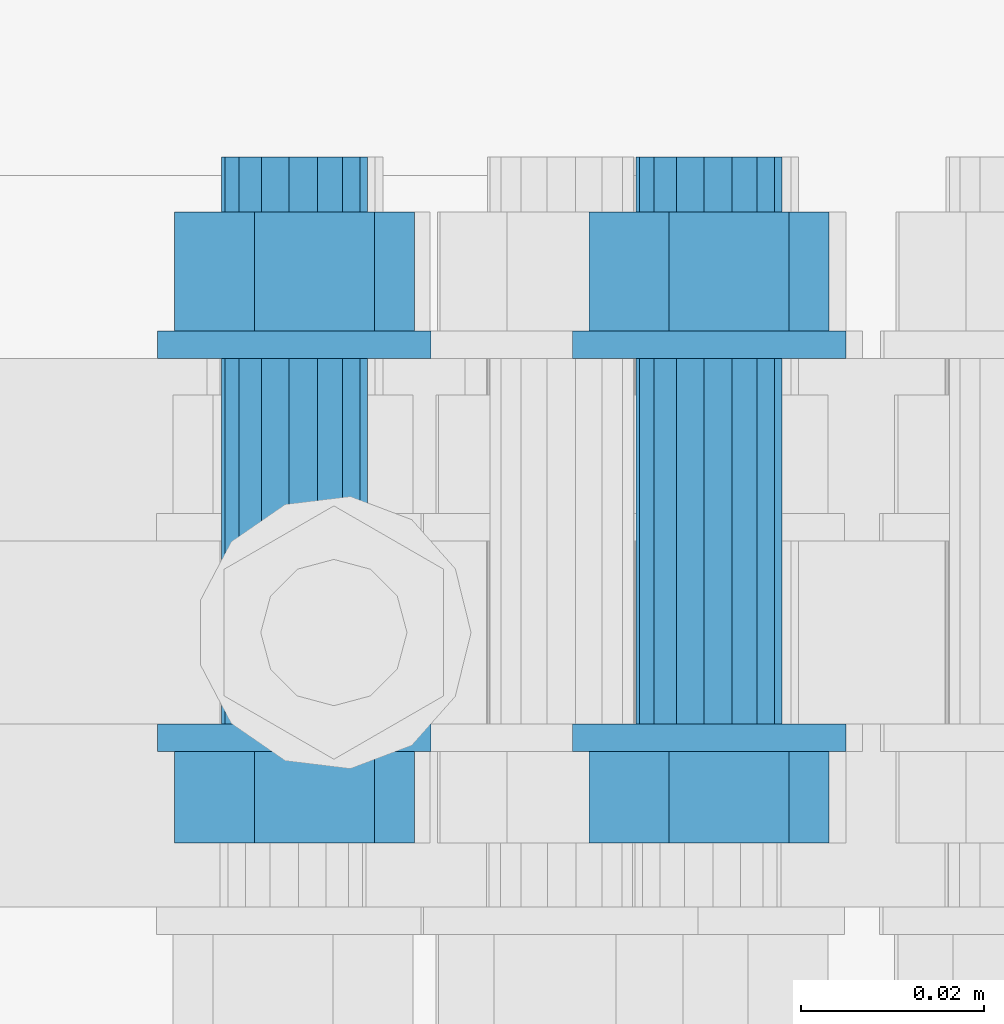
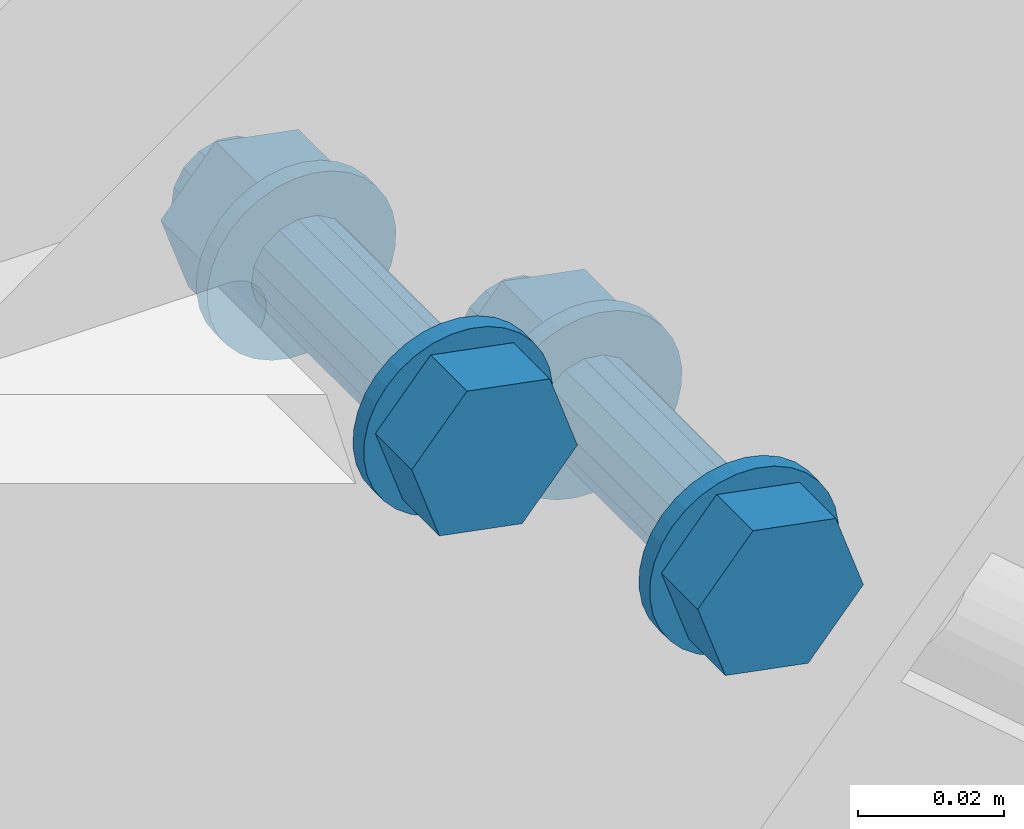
# One storey, part 248 of 825: 1 mechanical fastener.
"""IFC2X3 building model written with IfcOpenShell, lengths in millimetres."""

from ifc_helpers import new_model, entity, si_unit, converted_unit, origin_with_axes, place, context, project, spatial, faceted_brep, element, save


model = new_model("IFC2X3")

# Units and contexts
model_context = context("Model", 3, precision=1e-09, world=origin_with_axes())
ifc_project = project(units=[si_unit("LENGTHUNIT", "METRE", prefix="MILLI"), si_unit("AREAUNIT", "SQUARE_METRE"), si_unit("VOLUMEUNIT", "CUBIC_METRE"), converted_unit("PLANEANGLEUNIT", "DEGREE", entity("IfcPlaneAngleMeasure", 0.01745329), si_unit("PLANEANGLEUNIT", "RADIAN"), dimensions=[0, 0, 0, 0, 0, 0, 0])], contexts=[model_context])

# Site, building, storey
site_placement = place(None, origin_with_axes())
site = spatial("IfcSite", under=ifc_project, at=site_placement, Name="Cnopf'sche Kinderklinik", CompositionType="ELEMENT")
building_placement = place(site_placement, origin_with_axes())
building = spatial("IfcBuilding", under=site, at=building_placement, Name="Struktur 1", CompositionType="ELEMENT")
storey_placement = place(building_placement, origin_with_axes())
storey = spatial("IfcBuildingStorey", under=building, at=storey_placement, Name="Default Storey", CompositionType="ELEMENT", Elevation=0.0)

# Mechanical fastener
mechanical_fastener_placement = place(None, origin_with_axes())
element("IfcMechanicalFastener", 1, at=mechanical_fastener_placement, inside=storey, ObjectType="-", NominalDiameter=16.0, NominalLength=65.0, context=model_context, shape_type="Brep", body=[
    faceted_brep([(5026.414419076, 4356.736971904, 6838.024527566), (5026.414419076, 4353.736971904, 6838.024527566), (5028.548111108, 4353.736971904, 6840.047886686), (5028.548111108, 4356.736971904, 6840.047886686), (5031.035542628, 4353.736971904, 6841.616104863), (5031.035542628, 4356.736971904, 6841.616104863), (5033.781123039, 4353.736971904, 6842.668916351), (5033.781123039, 4356.736971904, 6842.668916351), (5036.679341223, 4353.736971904, 6843.165862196), (5036.679341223, 4356.736971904, 6843.165862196), (5039.618820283, 4353.736971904, 6843.087845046), (5039.618820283, 4356.736971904, 6843.087845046), (5042.486597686, 4353.736971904, 6842.437863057), (5042.486597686, 4356.736971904, 6842.437863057), (5045.172466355, 4353.736971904, 6841.240894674), (5045.172466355, 4356.736971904, 6841.240894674), (5047.573209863, 4353.736971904, 6839.542938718), (5047.573209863, 4356.736971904, 6839.542938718), (5049.596568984, 4353.736971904, 6837.409246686), (5049.596568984, 4356.736971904, 6837.409246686), (5051.164787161, 4353.736971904, 6834.921815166), (5051.164787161, 4356.736971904, 6834.921815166), (5052.217598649, 4353.736971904, 6832.176234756), (5052.217598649, 4356.736971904, 6832.176234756), (5052.714544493, 4353.736971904, 6829.278016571), (5052.714544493, 4356.736971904, 6829.278016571), (5052.636527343, 4353.736971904, 6826.338537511), (5052.636527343, 4356.736971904, 6826.338537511), (5051.986545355, 4353.736971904, 6823.470760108), (5051.986545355, 4356.736971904, 6823.470760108), (5050.789576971, 4353.736971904, 6820.784891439), (5050.789576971, 4356.736971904, 6820.784891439), (5049.091621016, 4353.736971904, 6818.384147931), (5049.091621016, 4356.736971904, 6818.384147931), (5046.957928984, 4353.736971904, 6816.36078881), (5046.957928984, 4356.736971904, 6816.36078881), (5044.470497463, 4353.736971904, 6814.792570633), (5044.470497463, 4356.736971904, 6814.792570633), (5041.724917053, 4353.736971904, 6813.739759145), (5041.724917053, 4356.736971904, 6813.739759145), (5038.826698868, 4353.736971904, 6813.242813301), (5038.826698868, 4356.736971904, 6813.242813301), (5035.887219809, 4353.736971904, 6813.320830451), (5035.887219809, 4356.736971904, 6813.320830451), (5033.019442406, 4353.736971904, 6813.970812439), (5033.019442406, 4356.736971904, 6813.970812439), (5030.333573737, 4353.736971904, 6815.167780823), (5030.333573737, 4356.736971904, 6815.167780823), (5027.932830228, 4353.736971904, 6816.865736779), (5027.932830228, 4356.736971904, 6816.865736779), (5025.909471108, 4353.736971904, 6818.999428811), (5025.909471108, 4356.736971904, 6818.999428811), (5024.341252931, 4353.736971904, 6821.486860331), (5024.341252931, 4356.736971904, 6821.486860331), (5023.288441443, 4353.736971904, 6824.232440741), (5023.288441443, 4356.736971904, 6824.232440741), (5022.791495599, 4353.736971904, 6827.130658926), (5022.791495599, 4356.736971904, 6827.130658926), (5022.869512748, 4353.736971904, 6830.070137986), (5022.869512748, 4356.736971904, 6830.070137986), (5023.519494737, 4353.736971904, 6832.937915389), (5023.519494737, 4356.736971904, 6832.937915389), (5024.716463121, 4353.736971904, 6835.623784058), (5024.716463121, 4356.736971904, 6835.623784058)], [[[0, 1, 2, 3]], [[3, 2, 4, 5]], [[5, 4, 6, 7]], [[7, 6, 8, 9]], [[9, 8, 10, 11]], [[11, 10, 12, 13]], [[13, 12, 14, 15]], [[15, 14, 16, 17]], [[17, 16, 18, 19]], [[19, 18, 20, 21]], [[21, 20, 22, 23]], [[23, 22, 24, 25]], [[25, 24, 26, 27]], [[27, 26, 28, 29]], [[29, 28, 30, 31]], [[31, 30, 32, 33]], [[33, 32, 34, 35]], [[35, 34, 36, 37]], [[37, 36, 38, 39]], [[39, 38, 40, 41]], [[41, 40, 42, 43]], [[43, 42, 44, 45]], [[45, 44, 46, 47]], [[47, 46, 48, 49]], [[49, 48, 50, 51]], [[51, 50, 52, 53]], [[53, 52, 54, 55]], [[55, 54, 56, 57]], [[57, 56, 58, 59]], [[59, 58, 60, 61]], [[61, 60, 62, 63]], [[63, 62, 1, 0]], [[2, 1, 62, 60, 58, 56, 54, 52, 50, 48, 46, 44, 42, 40, 38, 36, 34, 32, 30, 28, 26, 24, 22, 20, 18, 16, 14, 12, 10, 8, 6, 4]], [[63, 0, 3, 5, 7, 9, 11, 13, 15, 17, 19, 21, 23, 25, 27, 29, 31, 33, 35, 37, 39, 41, 43, 45, 47, 49, 51, 53, 55, 57, 59, 61]]]),
    faceted_brep([(4981.060015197, 4356.736971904, 6877.305286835), (4981.060015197, 4353.736971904, 6877.305286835), (4983.193707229, 4353.736971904, 6879.328645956), (4983.193707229, 4356.736971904, 6879.328645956), (4985.68113875, 4353.736971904, 6880.896864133), (4985.68113875, 4356.736971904, 6880.896864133), (4988.42671916, 4353.736971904, 6881.949675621), (4988.42671916, 4356.736971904, 6881.949675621), (4991.324937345, 4353.736971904, 6882.446621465), (4991.324937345, 4356.736971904, 6882.446621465), (4994.264416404, 4353.736971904, 6882.368604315), (4994.264416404, 4356.736971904, 6882.368604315), (4997.132193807, 4353.736971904, 6881.718622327), (4997.132193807, 4356.736971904, 6881.718622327), (4999.818062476, 4353.736971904, 6880.521653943), (4999.818062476, 4356.736971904, 6880.521653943), (5002.218805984, 4353.736971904, 6878.823697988), (5002.218805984, 4356.736971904, 6878.823697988), (5004.242165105, 4353.736971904, 6876.690005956), (5004.242165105, 4356.736971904, 6876.690005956), (5005.810383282, 4353.736971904, 6874.202574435), (5005.810383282, 4356.736971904, 6874.202574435), (5006.86319477, 4353.736971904, 6871.456994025), (5006.86319477, 4356.736971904, 6871.456994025), (5007.360140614, 4353.736971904, 6868.55877584), (5007.360140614, 4356.736971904, 6868.55877584), (5007.282123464, 4353.736971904, 6865.619296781), (5007.282123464, 4356.736971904, 6865.619296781), (5006.632141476, 4353.736971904, 6862.751519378), (5006.632141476, 4356.736971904, 6862.751519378), (5005.435173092, 4353.736971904, 6860.065650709), (5005.435173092, 4356.736971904, 6860.065650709), (5003.737217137, 4353.736971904, 6857.664907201), (5003.737217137, 4356.736971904, 6857.664907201), (5001.603525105, 4353.736971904, 6855.64154808), (5001.603525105, 4356.736971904, 6855.64154808), (4999.116093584, 4353.736971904, 6854.073329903), (4999.116093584, 4356.736971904, 6854.073329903), (4996.370513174, 4353.736971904, 6853.020518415), (4996.370513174, 4356.736971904, 6853.020518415), (4993.472294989, 4353.736971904, 6852.523572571), (4993.472294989, 4356.736971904, 6852.523572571), (4990.53281593, 4353.736971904, 6852.601589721), (4990.53281593, 4356.736971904, 6852.601589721), (4987.665038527, 4353.736971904, 6853.251571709), (4987.665038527, 4356.736971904, 6853.251571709), (4984.979169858, 4353.736971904, 6854.448540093), (4984.979169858, 4356.736971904, 6854.448540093), (4982.57842635, 4353.736971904, 6856.146496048), (4982.57842635, 4356.736971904, 6856.146496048), (4980.555067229, 4353.736971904, 6858.28018808), (4980.555067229, 4356.736971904, 6858.28018808), (4978.986849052, 4353.736971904, 6860.767619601), (4978.986849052, 4356.736971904, 6860.767619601), (4977.934037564, 4353.736971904, 6863.513200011), (4977.934037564, 4356.736971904, 6863.513200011), (4977.43709172, 4353.736971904, 6866.411418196), (4977.43709172, 4356.736971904, 6866.411418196), (4977.51510887, 4353.736971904, 6869.350897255), (4977.51510887, 4356.736971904, 6869.350897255), (4978.165090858, 4353.736971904, 6872.218674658), (4978.165090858, 4356.736971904, 6872.218674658), (4979.362059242, 4353.736971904, 6874.904543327), (4979.362059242, 4356.736971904, 6874.904543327)], [[[0, 1, 2, 3]], [[3, 2, 4, 5]], [[5, 4, 6, 7]], [[7, 6, 8, 9]], [[9, 8, 10, 11]], [[11, 10, 12, 13]], [[13, 12, 14, 15]], [[15, 14, 16, 17]], [[17, 16, 18, 19]], [[19, 18, 20, 21]], [[21, 20, 22, 23]], [[23, 22, 24, 25]], [[25, 24, 26, 27]], [[27, 26, 28, 29]], [[29, 28, 30, 31]], [[31, 30, 32, 33]], [[33, 32, 34, 35]], [[35, 34, 36, 37]], [[37, 36, 38, 39]], [[39, 38, 40, 41]], [[41, 40, 42, 43]], [[43, 42, 44, 45]], [[45, 44, 46, 47]], [[47, 46, 48, 49]], [[49, 48, 50, 51]], [[51, 50, 52, 53]], [[53, 52, 54, 55]], [[55, 54, 56, 57]], [[57, 56, 58, 59]], [[59, 58, 60, 61]], [[61, 60, 62, 63]], [[63, 62, 1, 0]], [[2, 1, 62, 60, 58, 56, 54, 52, 50, 48, 46, 44, 42, 40, 38, 36, 34, 32, 30, 28, 26, 24, 22, 20, 18, 16, 14, 12, 10, 8, 6, 4]], [[63, 0, 3, 5, 7, 9, 11, 13, 15, 17, 19, 21, 23, 25, 27, 29, 31, 33, 35, 37, 39, 41, 43, 45, 47, 49, 51, 53, 55, 57, 59, 61]]]),
    faceted_brep([(5050.886923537, 4343.736971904, 6825.676254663), (5050.886923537, 4353.736971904, 6825.676254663), (5046.509355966, 4353.736971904, 6838.31459028), (5046.509355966, 4343.736971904, 6838.31459028), (5033.375452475, 4353.736971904, 6840.842673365), (5033.375452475, 4343.736971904, 6840.842673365), (5024.619116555, 4353.736971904, 6830.732420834), (5024.619116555, 4343.736971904, 6830.732420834), (5028.996684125, 4353.736971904, 6818.094085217), (5028.996684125, 4343.736971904, 6818.094085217), (5042.130587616, 4353.736971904, 6815.566002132), (5042.130587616, 4343.736971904, 6815.566002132)], [[[0, 1, 2, 3]], [[3, 2, 4, 5]], [[5, 4, 6, 7]], [[7, 6, 8, 9]], [[9, 8, 10, 11]], [[11, 10, 1, 0]], [[3, 5, 7, 9, 11, 0]], [[2, 1, 10, 8, 6, 4]]]),
    faceted_brep([(5005.532519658, 4343.736971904, 6864.957013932), (5005.532519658, 4353.736971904, 6864.957013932), (5001.154952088, 4353.736971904, 6877.595349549), (5001.154952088, 4343.736971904, 6877.595349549), (4988.021048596, 4353.736971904, 6880.123432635), (4988.021048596, 4343.736971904, 6880.123432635), (4979.264712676, 4353.736971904, 6870.013180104), (4979.264712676, 4343.736971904, 6870.013180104), (4983.642280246, 4353.736971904, 6857.374844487), (4983.642280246, 4343.736971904, 6857.374844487), (4996.776183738, 4353.736971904, 6854.846761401), (4996.776183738, 4343.736971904, 6854.846761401)], [[[0, 1, 2, 3]], [[3, 2, 4, 5]], [[5, 4, 6, 7]], [[7, 6, 8, 9]], [[9, 8, 10, 11]], [[11, 10, 1, 0]], [[3, 5, 7, 9, 11, 0]], [[2, 1, 10, 8, 6, 4]]]),
    faceted_brep([(5031.705766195, 4396.736971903, 6833.441772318), (5031.705766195, 4356.736971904, 6833.441772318), (5034.170365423, 4356.736971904, 6835.35728021), (5034.170365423, 4396.736971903, 6835.35728021), (5037.180391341, 4356.736971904, 6836.183817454), (5037.180391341, 4396.736971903, 6836.183817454), (5040.277594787, 4356.736971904, 6835.795551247), (5040.277594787, 4396.736971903, 6835.795551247), (5042.990454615, 4356.736971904, 6834.251591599), (5042.990454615, 4396.736971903, 6834.251591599), (5044.905962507, 4356.736971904, 6831.786992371), (5044.905962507, 4396.736971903, 6831.786992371), (5045.732499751, 4356.736971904, 6828.776966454), (5045.732499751, 4396.736971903, 6828.776966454), (5045.344233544, 4356.736971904, 6825.679763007), (5045.344233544, 4396.736971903, 6825.679763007), (5043.800273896, 4356.736971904, 6822.966903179), (5043.800273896, 4396.736971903, 6822.966903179), (5041.335674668, 4356.736971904, 6821.051395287), (5041.335674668, 4396.736971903, 6821.051395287), (5038.325648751, 4356.736971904, 6820.224858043), (5038.325648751, 4396.736971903, 6820.224858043), (5035.228445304, 4356.736971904, 6820.61312425), (5035.228445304, 4396.736971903, 6820.61312425), (5032.515585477, 4356.736971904, 6822.157083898), (5032.515585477, 4396.736971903, 6822.157083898), (5030.600077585, 4356.736971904, 6824.621683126), (5030.600077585, 4396.736971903, 6824.621683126), (5029.773540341, 4356.736971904, 6827.631709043), (5029.773540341, 4396.736971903, 6827.631709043), (5030.161806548, 4356.736971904, 6830.72891249), (5030.161806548, 4396.736971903, 6830.72891249)], [[[0, 1, 2, 3]], [[3, 2, 4, 5]], [[5, 4, 6, 7]], [[7, 6, 8, 9]], [[9, 8, 10, 11]], [[11, 10, 12, 13]], [[13, 12, 14, 15]], [[15, 14, 16, 17]], [[17, 16, 18, 19]], [[19, 18, 20, 21]], [[21, 20, 22, 23]], [[23, 22, 24, 25]], [[25, 24, 26, 27]], [[27, 26, 28, 29]], [[29, 28, 30, 31]], [[31, 30, 1, 0]], [[2, 1, 30, 28, 26, 24, 22, 20, 18, 16, 14, 12, 10, 8, 6, 4]], [[31, 0, 3, 5, 7, 9, 11, 13, 15, 17, 19, 21, 23, 25, 27, 29]]]),
    faceted_brep([(4986.351362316, 4396.736971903, 6872.722531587), (4986.351362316, 4356.736971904, 6872.722531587), (4988.815961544, 4356.736971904, 6874.638039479), (4988.815961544, 4396.736971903, 6874.638039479), (4991.825987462, 4356.736971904, 6875.464576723), (4991.825987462, 4396.736971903, 6875.464576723), (4994.923190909, 4356.736971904, 6875.076310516), (4994.923190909, 4396.736971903, 6875.076310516), (4997.636050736, 4356.736971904, 6873.532350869), (4997.636050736, 4396.736971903, 6873.532350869), (4999.551558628, 4356.736971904, 6871.067751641), (4999.551558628, 4396.736971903, 6871.067751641), (5000.378095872, 4356.736971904, 6868.057725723), (5000.378095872, 4396.736971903, 6868.057725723), (4999.989829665, 4356.736971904, 6864.960522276), (4999.989829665, 4396.736971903, 6864.960522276), (4998.445870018, 4356.736971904, 6862.247662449), (4998.445870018, 4396.736971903, 6862.247662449), (4995.98127079, 4356.736971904, 6860.332154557), (4995.98127079, 4396.736971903, 6860.332154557), (4992.971244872, 4356.736971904, 6859.505617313), (4992.971244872, 4396.736971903, 6859.505617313), (4989.874041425, 4356.736971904, 6859.89388352), (4989.874041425, 4396.736971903, 6859.89388352), (4987.161181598, 4356.736971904, 6861.437843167), (4987.161181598, 4396.736971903, 6861.437843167), (4985.245673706, 4356.736971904, 6863.902442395), (4985.245673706, 4396.736971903, 6863.902442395), (4984.419136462, 4356.736971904, 6866.912468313), (4984.419136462, 4396.736971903, 6866.912468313), (4984.807402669, 4356.736971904, 6870.00967176), (4984.807402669, 4396.736971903, 6870.00967176)], [[[0, 1, 2, 3]], [[3, 2, 4, 5]], [[5, 4, 6, 7]], [[7, 6, 8, 9]], [[9, 8, 10, 11]], [[11, 10, 12, 13]], [[13, 12, 14, 15]], [[15, 14, 16, 17]], [[17, 16, 18, 19]], [[19, 18, 20, 21]], [[21, 20, 22, 23]], [[23, 22, 24, 25]], [[25, 24, 26, 27]], [[27, 26, 28, 29]], [[29, 28, 30, 31]], [[31, 30, 1, 0]], [[2, 1, 30, 28, 26, 24, 22, 20, 18, 16, 14, 12, 10, 8, 6, 4]], [[31, 0, 3, 5, 7, 9, 11, 13, 15, 17, 19, 21, 23, 25, 27, 29]]]),
    faceted_brep([(5026.414419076, 4399.736971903, 6838.024527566), (5026.414419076, 4396.736971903, 6838.024527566), (5028.548111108, 4396.736971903, 6840.047886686), (5028.548111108, 4399.736971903, 6840.047886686), (5031.035542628, 4396.736971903, 6841.616104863), (5031.035542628, 4399.736971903, 6841.616104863), (5033.781123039, 4396.736971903, 6842.668916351), (5033.781123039, 4399.736971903, 6842.668916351), (5036.679341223, 4396.736971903, 6843.165862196), (5036.679341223, 4399.736971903, 6843.165862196), (5039.618820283, 4396.736971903, 6843.087845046), (5039.618820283, 4399.736971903, 6843.087845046), (5042.486597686, 4396.736971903, 6842.437863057), (5042.486597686, 4399.736971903, 6842.437863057), (5045.172466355, 4396.736971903, 6841.240894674), (5045.172466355, 4399.736971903, 6841.240894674), (5047.573209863, 4396.736971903, 6839.542938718), (5047.573209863, 4399.736971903, 6839.542938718), (5049.596568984, 4396.736971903, 6837.409246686), (5049.596568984, 4399.736971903, 6837.409246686), (5051.164787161, 4396.736971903, 6834.921815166), (5051.164787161, 4399.736971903, 6834.921815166), (5052.217598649, 4396.736971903, 6832.176234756), (5052.217598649, 4399.736971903, 6832.176234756), (5052.714544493, 4396.736971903, 6829.278016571), (5052.714544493, 4399.736971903, 6829.278016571), (5052.636527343, 4396.736971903, 6826.338537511), (5052.636527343, 4399.736971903, 6826.338537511), (5051.986545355, 4396.736971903, 6823.470760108), (5051.986545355, 4399.736971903, 6823.470760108), (5050.789576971, 4396.736971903, 6820.784891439), (5050.789576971, 4399.736971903, 6820.784891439), (5049.091621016, 4396.736971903, 6818.384147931), (5049.091621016, 4399.736971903, 6818.384147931), (5046.957928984, 4396.736971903, 6816.36078881), (5046.957928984, 4399.736971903, 6816.36078881), (5044.470497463, 4396.736971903, 6814.792570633), (5044.470497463, 4399.736971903, 6814.792570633), (5041.724917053, 4396.736971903, 6813.739759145), (5041.724917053, 4399.736971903, 6813.739759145), (5038.826698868, 4396.736971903, 6813.242813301), (5038.826698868, 4399.736971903, 6813.242813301), (5035.887219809, 4396.736971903, 6813.320830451), (5035.887219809, 4399.736971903, 6813.320830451), (5033.019442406, 4396.736971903, 6813.970812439), (5033.019442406, 4399.736971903, 6813.970812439), (5030.333573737, 4396.736971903, 6815.167780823), (5030.333573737, 4399.736971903, 6815.167780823), (5027.932830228, 4396.736971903, 6816.865736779), (5027.932830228, 4399.736971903, 6816.865736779), (5025.909471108, 4396.736971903, 6818.999428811), (5025.909471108, 4399.736971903, 6818.999428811), (5024.341252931, 4396.736971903, 6821.486860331), (5024.341252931, 4399.736971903, 6821.486860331), (5023.288441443, 4396.736971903, 6824.232440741), (5023.288441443, 4399.736971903, 6824.232440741), (5022.791495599, 4396.736971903, 6827.130658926), (5022.791495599, 4399.736971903, 6827.130658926), (5022.869512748, 4396.736971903, 6830.070137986), (5022.869512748, 4399.736971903, 6830.070137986), (5023.519494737, 4396.736971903, 6832.937915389), (5023.519494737, 4399.736971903, 6832.937915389), (5024.716463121, 4396.736971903, 6835.623784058), (5024.716463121, 4399.736971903, 6835.623784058)], [[[0, 1, 2, 3]], [[3, 2, 4, 5]], [[5, 4, 6, 7]], [[7, 6, 8, 9]], [[9, 8, 10, 11]], [[11, 10, 12, 13]], [[13, 12, 14, 15]], [[15, 14, 16, 17]], [[17, 16, 18, 19]], [[19, 18, 20, 21]], [[21, 20, 22, 23]], [[23, 22, 24, 25]], [[25, 24, 26, 27]], [[27, 26, 28, 29]], [[29, 28, 30, 31]], [[31, 30, 32, 33]], [[33, 32, 34, 35]], [[35, 34, 36, 37]], [[37, 36, 38, 39]], [[39, 38, 40, 41]], [[41, 40, 42, 43]], [[43, 42, 44, 45]], [[45, 44, 46, 47]], [[47, 46, 48, 49]], [[49, 48, 50, 51]], [[51, 50, 52, 53]], [[53, 52, 54, 55]], [[55, 54, 56, 57]], [[57, 56, 58, 59]], [[59, 58, 60, 61]], [[61, 60, 62, 63]], [[63, 62, 1, 0]], [[2, 1, 62, 60, 58, 56, 54, 52, 50, 48, 46, 44, 42, 40, 38, 36, 34, 32, 30, 28, 26, 24, 22, 20, 18, 16, 14, 12, 10, 8, 6, 4]], [[63, 0, 3, 5, 7, 9, 11, 13, 15, 17, 19, 21, 23, 25, 27, 29, 31, 33, 35, 37, 39, 41, 43, 45, 47, 49, 51, 53, 55, 57, 59, 61]]]),
    faceted_brep([(4981.060015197, 4399.736971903, 6877.305286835), (4981.060015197, 4396.736971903, 6877.305286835), (4983.193707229, 4396.736971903, 6879.328645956), (4983.193707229, 4399.736971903, 6879.328645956), (4985.68113875, 4396.736971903, 6880.896864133), (4985.68113875, 4399.736971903, 6880.896864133), (4988.42671916, 4396.736971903, 6881.949675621), (4988.42671916, 4399.736971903, 6881.949675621), (4991.324937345, 4396.736971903, 6882.446621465), (4991.324937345, 4399.736971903, 6882.446621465), (4994.264416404, 4396.736971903, 6882.368604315), (4994.264416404, 4399.736971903, 6882.368604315), (4997.132193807, 4396.736971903, 6881.718622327), (4997.132193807, 4399.736971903, 6881.718622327), (4999.818062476, 4396.736971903, 6880.521653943), (4999.818062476, 4399.736971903, 6880.521653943), (5002.218805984, 4396.736971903, 6878.823697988), (5002.218805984, 4399.736971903, 6878.823697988), (5004.242165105, 4396.736971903, 6876.690005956), (5004.242165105, 4399.736971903, 6876.690005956), (5005.810383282, 4396.736971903, 6874.202574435), (5005.810383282, 4399.736971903, 6874.202574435), (5006.86319477, 4396.736971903, 6871.456994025), (5006.86319477, 4399.736971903, 6871.456994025), (5007.360140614, 4396.736971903, 6868.55877584), (5007.360140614, 4399.736971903, 6868.55877584), (5007.282123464, 4396.736971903, 6865.619296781), (5007.282123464, 4399.736971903, 6865.619296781), (5006.632141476, 4396.736971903, 6862.751519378), (5006.632141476, 4399.736971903, 6862.751519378), (5005.435173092, 4396.736971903, 6860.065650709), (5005.435173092, 4399.736971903, 6860.065650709), (5003.737217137, 4396.736971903, 6857.664907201), (5003.737217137, 4399.736971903, 6857.664907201), (5001.603525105, 4396.736971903, 6855.64154808), (5001.603525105, 4399.736971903, 6855.64154808), (4999.116093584, 4396.736971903, 6854.073329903), (4999.116093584, 4399.736971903, 6854.073329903), (4996.370513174, 4396.736971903, 6853.020518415), (4996.370513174, 4399.736971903, 6853.020518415), (4993.472294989, 4396.736971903, 6852.523572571), (4993.472294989, 4399.736971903, 6852.523572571), (4990.53281593, 4396.736971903, 6852.601589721), (4990.53281593, 4399.736971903, 6852.601589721), (4987.665038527, 4396.736971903, 6853.251571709), (4987.665038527, 4399.736971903, 6853.251571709), (4984.979169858, 4396.736971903, 6854.448540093), (4984.979169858, 4399.736971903, 6854.448540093), (4982.57842635, 4396.736971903, 6856.146496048), (4982.57842635, 4399.736971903, 6856.146496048), (4980.555067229, 4396.736971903, 6858.28018808), (4980.555067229, 4399.736971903, 6858.28018808), (4978.986849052, 4396.736971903, 6860.767619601), (4978.986849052, 4399.736971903, 6860.767619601), (4977.934037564, 4396.736971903, 6863.513200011), (4977.934037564, 4399.736971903, 6863.513200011), (4977.43709172, 4396.736971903, 6866.411418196), (4977.43709172, 4399.736971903, 6866.411418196), (4977.51510887, 4396.736971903, 6869.350897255), (4977.51510887, 4399.736971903, 6869.350897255), (4978.165090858, 4396.736971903, 6872.218674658), (4978.165090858, 4399.736971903, 6872.218674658), (4979.362059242, 4396.736971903, 6874.904543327), (4979.362059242, 4399.736971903, 6874.904543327)], [[[0, 1, 2, 3]], [[3, 2, 4, 5]], [[5, 4, 6, 7]], [[7, 6, 8, 9]], [[9, 8, 10, 11]], [[11, 10, 12, 13]], [[13, 12, 14, 15]], [[15, 14, 16, 17]], [[17, 16, 18, 19]], [[19, 18, 20, 21]], [[21, 20, 22, 23]], [[23, 22, 24, 25]], [[25, 24, 26, 27]], [[27, 26, 28, 29]], [[29, 28, 30, 31]], [[31, 30, 32, 33]], [[33, 32, 34, 35]], [[35, 34, 36, 37]], [[37, 36, 38, 39]], [[39, 38, 40, 41]], [[41, 40, 42, 43]], [[43, 42, 44, 45]], [[45, 44, 46, 47]], [[47, 46, 48, 49]], [[49, 48, 50, 51]], [[51, 50, 52, 53]], [[53, 52, 54, 55]], [[55, 54, 56, 57]], [[57, 56, 58, 59]], [[59, 58, 60, 61]], [[61, 60, 62, 63]], [[63, 62, 1, 0]], [[2, 1, 62, 60, 58, 56, 54, 52, 50, 48, 46, 44, 42, 40, 38, 36, 34, 32, 30, 28, 26, 24, 22, 20, 18, 16, 14, 12, 10, 8, 6, 4]], [[63, 0, 3, 5, 7, 9, 11, 13, 15, 17, 19, 21, 23, 25, 27, 29, 31, 33, 35, 37, 39, 41, 43, 45, 47, 49, 51, 53, 55, 57, 59, 61]]]),
    faceted_brep([(5050.886923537, 4399.736971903, 6825.676254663), (5050.886923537, 4412.736971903, 6825.676254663), (5046.509355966, 4412.736971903, 6838.31459028), (5046.509355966, 4399.736971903, 6838.31459028), (5033.375452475, 4412.736971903, 6840.842673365), (5033.375452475, 4399.736971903, 6840.842673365), (5024.619116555, 4412.736971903, 6830.732420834), (5024.619116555, 4399.736971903, 6830.732420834), (5028.996684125, 4412.736971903, 6818.094085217), (5028.996684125, 4399.736971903, 6818.094085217), (5042.130587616, 4412.736971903, 6815.566002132), (5042.130587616, 4399.736971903, 6815.566002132)], [[[0, 1, 2, 3]], [[3, 2, 4, 5]], [[5, 4, 6, 7]], [[7, 6, 8, 9]], [[9, 8, 10, 11]], [[11, 10, 1, 0]], [[3, 5, 7, 9, 11, 0]], [[2, 1, 10, 8, 6, 4]]]),
    faceted_brep([(5005.532519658, 4399.736971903, 6864.957013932), (5005.532519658, 4412.736971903, 6864.957013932), (5001.154952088, 4412.736971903, 6877.595349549), (5001.154952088, 4399.736971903, 6877.595349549), (4988.021048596, 4412.736971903, 6880.123432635), (4988.021048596, 4399.736971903, 6880.123432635), (4979.264712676, 4412.736971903, 6870.013180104), (4979.264712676, 4399.736971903, 6870.013180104), (4983.642280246, 4412.736971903, 6857.374844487), (4983.642280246, 4399.736971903, 6857.374844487), (4996.776183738, 4412.736971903, 6854.846761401), (4996.776183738, 4399.736971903, 6854.846761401)], [[[0, 1, 2, 3]], [[3, 2, 4, 5]], [[5, 4, 6, 7]], [[7, 6, 8, 9]], [[9, 8, 10, 11]], [[11, 10, 1, 0]], [[3, 5, 7, 9, 11, 0]], [[2, 1, 10, 8, 6, 4]]]),
    faceted_brep([(5031.705766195, 4418.736971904, 6833.441772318), (5031.705766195, 4412.736971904, 6833.441772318), (5034.170365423, 4412.736971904, 6835.35728021), (5034.170365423, 4418.736971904, 6835.35728021), (5037.180391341, 4412.736971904, 6836.183817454), (5037.180391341, 4418.736971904, 6836.183817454), (5040.277594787, 4412.736971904, 6835.795551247), (5040.277594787, 4418.736971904, 6835.795551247), (5042.990454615, 4412.736971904, 6834.251591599), (5042.990454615, 4418.736971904, 6834.251591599), (5044.905962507, 4412.736971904, 6831.786992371), (5044.905962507, 4418.736971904, 6831.786992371), (5045.732499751, 4412.736971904, 6828.776966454), (5045.732499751, 4418.736971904, 6828.776966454), (5045.344233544, 4412.736971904, 6825.679763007), (5045.344233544, 4418.736971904, 6825.679763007), (5043.800273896, 4412.736971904, 6822.966903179), (5043.800273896, 4418.736971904, 6822.966903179), (5041.335674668, 4412.736971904, 6821.051395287), (5041.335674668, 4418.736971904, 6821.051395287), (5038.325648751, 4412.736971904, 6820.224858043), (5038.325648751, 4418.736971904, 6820.224858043), (5035.228445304, 4412.736971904, 6820.61312425), (5035.228445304, 4418.736971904, 6820.61312425), (5032.515585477, 4412.736971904, 6822.157083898), (5032.515585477, 4418.736971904, 6822.157083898), (5030.600077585, 4412.736971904, 6824.621683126), (5030.600077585, 4418.736971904, 6824.621683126), (5029.773540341, 4412.736971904, 6827.631709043), (5029.773540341, 4418.736971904, 6827.631709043), (5030.161806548, 4412.736971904, 6830.72891249), (5030.161806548, 4418.736971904, 6830.72891249)], [[[0, 1, 2, 3]], [[3, 2, 4, 5]], [[5, 4, 6, 7]], [[7, 6, 8, 9]], [[9, 8, 10, 11]], [[11, 10, 12, 13]], [[13, 12, 14, 15]], [[15, 14, 16, 17]], [[17, 16, 18, 19]], [[19, 18, 20, 21]], [[21, 20, 22, 23]], [[23, 22, 24, 25]], [[25, 24, 26, 27]], [[27, 26, 28, 29]], [[29, 28, 30, 31]], [[31, 30, 1, 0]], [[2, 1, 30, 28, 26, 24, 22, 20, 18, 16, 14, 12, 10, 8, 6, 4]], [[31, 0, 3, 5, 7, 9, 11, 13, 15, 17, 19, 21, 23, 25, 27, 29]]]),
    faceted_brep([(4986.351362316, 4418.736971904, 6872.722531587), (4986.351362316, 4412.736971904, 6872.722531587), (4988.815961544, 4412.736971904, 6874.638039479), (4988.815961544, 4418.736971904, 6874.638039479), (4991.825987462, 4412.736971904, 6875.464576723), (4991.825987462, 4418.736971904, 6875.464576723), (4994.923190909, 4412.736971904, 6875.076310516), (4994.923190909, 4418.736971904, 6875.076310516), (4997.636050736, 4412.736971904, 6873.532350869), (4997.636050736, 4418.736971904, 6873.532350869), (4999.551558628, 4412.736971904, 6871.067751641), (4999.551558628, 4418.736971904, 6871.067751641), (5000.378095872, 4412.736971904, 6868.057725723), (5000.378095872, 4418.736971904, 6868.057725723), (4999.989829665, 4412.736971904, 6864.960522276), (4999.989829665, 4418.736971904, 6864.960522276), (4998.445870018, 4412.736971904, 6862.247662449), (4998.445870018, 4418.736971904, 6862.247662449), (4995.98127079, 4412.736971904, 6860.332154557), (4995.98127079, 4418.736971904, 6860.332154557), (4992.971244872, 4412.736971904, 6859.505617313), (4992.971244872, 4418.736971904, 6859.505617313), (4989.874041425, 4412.736971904, 6859.89388352), (4989.874041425, 4418.736971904, 6859.89388352), (4987.161181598, 4412.736971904, 6861.437843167), (4987.161181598, 4418.736971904, 6861.437843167), (4985.245673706, 4412.736971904, 6863.902442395), (4985.245673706, 4418.736971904, 6863.902442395), (4984.419136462, 4412.736971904, 6866.912468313), (4984.419136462, 4418.736971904, 6866.912468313), (4984.807402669, 4412.736971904, 6870.00967176), (4984.807402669, 4418.736971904, 6870.00967176)], [[[0, 1, 2, 3]], [[3, 2, 4, 5]], [[5, 4, 6, 7]], [[7, 6, 8, 9]], [[9, 8, 10, 11]], [[11, 10, 12, 13]], [[13, 12, 14, 15]], [[15, 14, 16, 17]], [[17, 16, 18, 19]], [[19, 18, 20, 21]], [[21, 20, 22, 23]], [[23, 22, 24, 25]], [[25, 24, 26, 27]], [[27, 26, 28, 29]], [[29, 28, 30, 31]], [[31, 30, 1, 0]], [[2, 1, 30, 28, 26, 24, 22, 20, 18, 16, 14, 12, 10, 8, 6, 4]], [[31, 0, 3, 5, 7, 9, 11, 13, 15, 17, 19, 21, 23, 25, 27, 29]]]),
])

save(model, "model.ifc")
